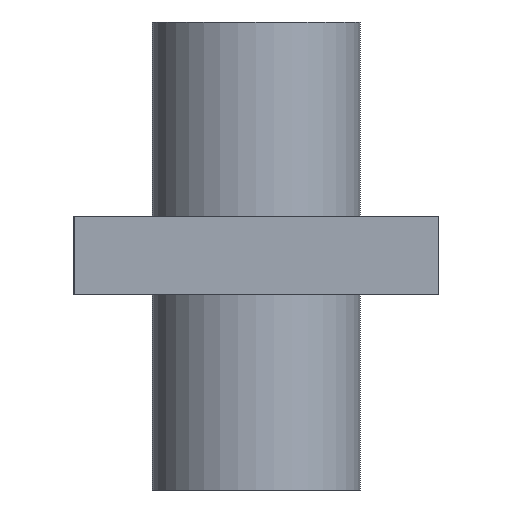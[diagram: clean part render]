
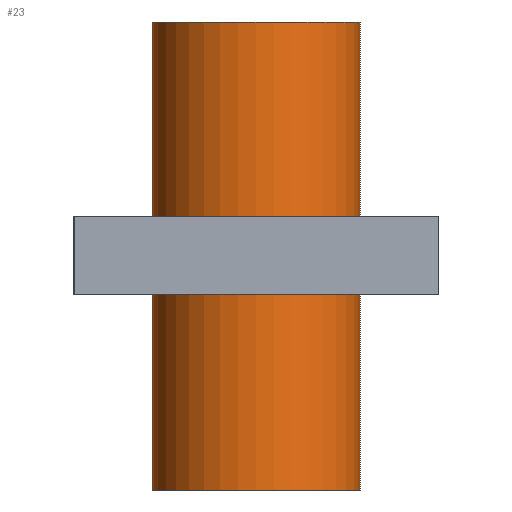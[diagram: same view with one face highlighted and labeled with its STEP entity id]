
A CAD part, front view. The second image highlights one B-rep face of the part: STEP entity #23.
In plain terms, the highlighted cylindrical face has radius 4 mm (diameter 8 mm), a partial arc.
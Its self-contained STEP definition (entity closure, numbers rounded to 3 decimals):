
#10 = CYLINDRICAL_SURFACE ( 'NONE', #473, 4. ) ;
#23 = ADVANCED_FACE ( 'NONE', ( #306 ), #10, .T. ) ;
#26 = EDGE_CURVE ( 'NONE', #792, #477, #674, .T. ) ;
#34 = DIRECTION ( 'NONE',  ( -1., 0., 0. ) ) ;
#100 = CARTESIAN_POINT ( 'NONE',  ( 0., 0., 18. ) ) ;
#110 = LINE ( 'NONE', #805, #463 ) ;
#115 = ORIENTED_EDGE ( 'NONE', *, *, #359, .T. ) ;
#123 = ORIENTED_EDGE ( 'NONE', *, *, #146, .F. ) ;
#146 = EDGE_CURVE ( 'NONE', #284, #477, #605, .T. ) ;
#166 = ORIENTED_EDGE ( 'NONE', *, *, #256, .F. ) ;
#248 = DIRECTION ( 'NONE',  ( 0., 0., 1. ) ) ;
#256 = EDGE_CURVE ( 'NONE', #299, #284, #362, .T. ) ;
#284 = VERTEX_POINT ( 'NONE', #727 ) ;
#299 = VERTEX_POINT ( 'NONE', #668 ) ;
#306 = FACE_OUTER_BOUND ( 'NONE', #581, .T. ) ;
#309 = DIRECTION ( 'NONE',  ( 0., 0., -1. ) ) ;
#359 = EDGE_CURVE ( 'NONE', #299, #792, #110, .T. ) ;
#362 = CIRCLE ( 'NONE', #736, 4. ) ;
#397 = CARTESIAN_POINT ( 'NONE',  ( 4., 0., 0. ) ) ;
#425 = DIRECTION ( 'NONE',  ( 0., 0., -1. ) ) ;
#463 = VECTOR ( 'NONE', #542, 1000. ) ;
#473 = AXIS2_PLACEMENT_3D ( 'NONE', #731, #425, #34 ) ;
#477 = VERTEX_POINT ( 'NONE', #397 ) ;
#495 = CARTESIAN_POINT ( 'NONE',  ( 0., 0., 0. ) ) ;
#539 = VECTOR ( 'NONE', #309, 1000. ) ;
#542 = DIRECTION ( 'NONE',  ( 0., 0., -1. ) ) ;
#581 = EDGE_LOOP ( 'NONE', ( #123, #166, #115, #753 ) ) ;
#605 = LINE ( 'NONE', #664, #539 ) ;
#621 = DIRECTION ( 'NONE',  ( 1., 0., 0. ) ) ;
#623 = CARTESIAN_POINT ( 'NONE',  ( -4., 0., 0. ) ) ;
#664 = CARTESIAN_POINT ( 'NONE',  ( 4., 0., 18. ) ) ;
#668 = CARTESIAN_POINT ( 'NONE',  ( -4., 0., 18. ) ) ;
#674 = CIRCLE ( 'NONE', #684, 4. ) ;
#676 = DIRECTION ( 'NONE',  ( 1., 0., 0. ) ) ;
#684 = AXIS2_PLACEMENT_3D ( 'NONE', #495, #746, #621 ) ;
#727 = CARTESIAN_POINT ( 'NONE',  ( 4., 0., 18. ) ) ;
#731 = CARTESIAN_POINT ( 'NONE',  ( 0., 0., 18. ) ) ;
#736 = AXIS2_PLACEMENT_3D ( 'NONE', #100, #248, #676 ) ;
#746 = DIRECTION ( 'NONE',  ( 0., 0., 1. ) ) ;
#753 = ORIENTED_EDGE ( 'NONE', *, *, #26, .T. ) ;
#792 = VERTEX_POINT ( 'NONE', #623 ) ;
#805 = CARTESIAN_POINT ( 'NONE',  ( -4., 0., 18. ) ) ;
